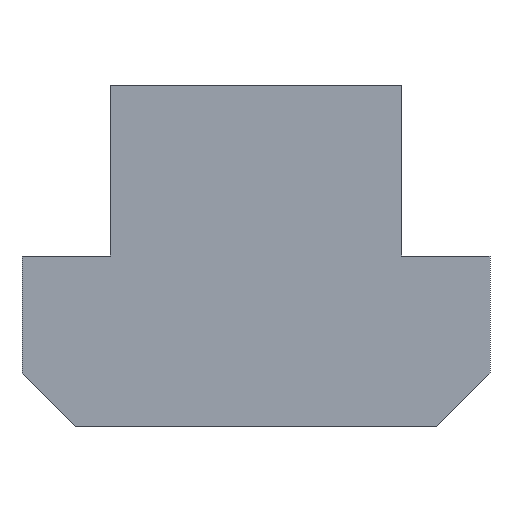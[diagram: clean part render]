
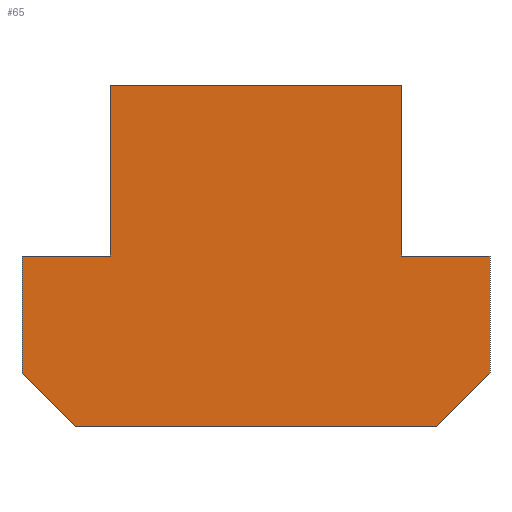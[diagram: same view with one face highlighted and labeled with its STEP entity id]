
A CAD part, front view. The second image highlights one B-rep face of the part: STEP entity #65.
In plain terms, the highlighted planar face has unit normal (0, -1, 0).
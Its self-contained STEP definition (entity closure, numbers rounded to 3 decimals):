
#65=ADVANCED_FACE('',(#130),#131,.F.);
#130=FACE_OUTER_BOUND('',#194,.T.);
#131=PLANE('',#195);
#194=EDGE_LOOP('',(#313,#314,#315,#316,#317,#318,#319,#320,#321,#322));
#195=AXIS2_PLACEMENT_3D('',#323,#324,#325);
#313=ORIENTED_EDGE('',*,*,#401,.T.);
#314=ORIENTED_EDGE('',*,*,#407,.F.);
#315=ORIENTED_EDGE('',*,*,#425,.F.);
#316=ORIENTED_EDGE('',*,*,#426,.F.);
#317=ORIENTED_EDGE('',*,*,#427,.F.);
#318=ORIENTED_EDGE('',*,*,#428,.T.);
#319=ORIENTED_EDGE('',*,*,#429,.F.);
#320=ORIENTED_EDGE('',*,*,#422,.T.);
#321=ORIENTED_EDGE('',*,*,#419,.T.);
#322=ORIENTED_EDGE('',*,*,#430,.F.);
#323=CARTESIAN_POINT('',(0.0,-11.0,4.0));
#324=DIRECTION('',(0.0,1.0,0.0));
#325=DIRECTION('',(0.0,0.0,1.0));
#401=EDGE_CURVE('',#474,#471,#475,.T.);
#407=EDGE_CURVE('',#482,#471,#484,.T.);
#419=EDGE_CURVE('',#504,#502,#505,.T.);
#422=EDGE_CURVE('',#508,#504,#509,.T.);
#425=EDGE_CURVE('',#512,#482,#513,.T.);
#426=EDGE_CURVE('',#514,#512,#515,.T.);
#427=EDGE_CURVE('',#516,#514,#517,.T.);
#428=EDGE_CURVE('',#516,#518,#519,.T.);
#429=EDGE_CURVE('',#508,#518,#520,.T.);
#430=EDGE_CURVE('',#474,#502,#521,.T.);
#471=VERTEX_POINT('',#568);
#474=VERTEX_POINT('',#572);
#475=LINE('',#573,#574);
#482=VERTEX_POINT('',#584);
#484=LINE('',#587,#588);
#502=VERTEX_POINT('',#614);
#504=VERTEX_POINT('',#617);
#505=LINE('',#618,#619);
#508=VERTEX_POINT('',#623);
#509=LINE('',#624,#625);
#512=VERTEX_POINT('',#629);
#513=LINE('',#630,#631);
#514=VERTEX_POINT('',#632);
#515=LINE('',#633,#634);
#516=VERTEX_POINT('',#635);
#517=LINE('',#636,#637);
#518=VERTEX_POINT('',#638);
#519=LINE('',#639,#640);
#520=LINE('',#641,#642);
#521=LINE('',#643,#644);
#568=CARTESIAN_POINT('',(11.0,-11.0,2.5));
#572=CARTESIAN_POINT('',(8.5,-11.0,0.0));
#573=CARTESIAN_POINT('',(8.259,-11.0,-0.241));
#574=VECTOR('',#691,1.0);
#584=CARTESIAN_POINT('',(11.0,-11.0,8.0));
#587=CARTESIAN_POINT('',(11.0,-11.0,4.0));
#588=VECTOR('',#696,1.0);
#614=CARTESIAN_POINT('',(-8.5,-11.0,0.0));
#617=CARTESIAN_POINT('',(-11.0,-11.0,2.5));
#618=CARTESIAN_POINT('',(-7.741,-11.0,-0.759));
#619=VECTOR('',#706,1.0);
#623=CARTESIAN_POINT('',(-11.0,-11.0,8.0));
#624=CARTESIAN_POINT('',(-11.0,-11.0,4.0));
#625=VECTOR('',#708,1.0);
#629=CARTESIAN_POINT('',(6.85,-11.0,8.0));
#630=CARTESIAN_POINT('',(0.0,-11.0,8.0));
#631=VECTOR('',#710,1.0);
#632=CARTESIAN_POINT('',(6.85,-11.0,16.0));
#633=CARTESIAN_POINT('',(6.85,-11.0,12.0));
#634=VECTOR('',#711,1.0);
#635=CARTESIAN_POINT('',(-6.85,-11.0,16.0));
#636=CARTESIAN_POINT('',(0.0,-11.0,16.0));
#637=VECTOR('',#712,1.0);
#638=CARTESIAN_POINT('',(-6.85,-11.0,8.0));
#639=CARTESIAN_POINT('',(-6.85,-11.0,12.0));
#640=VECTOR('',#713,1.0);
#641=CARTESIAN_POINT('',(0.0,-11.0,8.0));
#642=VECTOR('',#714,1.0);
#643=CARTESIAN_POINT('',(0.0,-11.0,0.0));
#644=VECTOR('',#715,1.0);
#691=DIRECTION('',(0.707,-0.0,0.707));
#696=DIRECTION('',(0.0,0.0,-1.0));
#706=DIRECTION('',(0.707,0.0,-0.707));
#708=DIRECTION('',(0.0,0.0,-1.0));
#710=DIRECTION('',(1.0,0.0,0.0));
#711=DIRECTION('',(0.0,0.0,-1.0));
#712=DIRECTION('',(1.0,0.0,0.0));
#713=DIRECTION('',(0.0,0.0,-1.0));
#714=DIRECTION('',(1.0,0.0,0.0));
#715=DIRECTION('',(-1.0,0.0,0.0));
